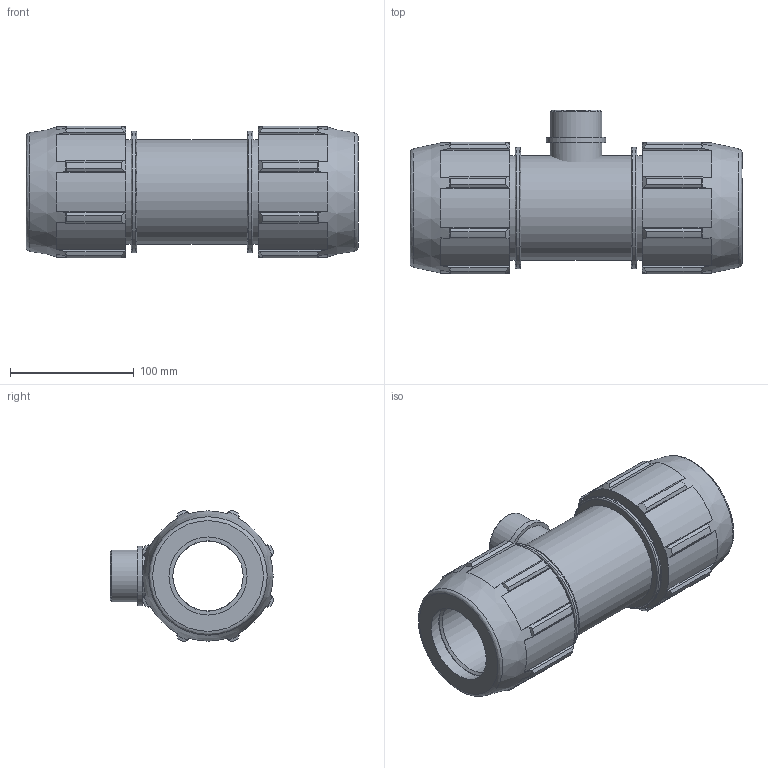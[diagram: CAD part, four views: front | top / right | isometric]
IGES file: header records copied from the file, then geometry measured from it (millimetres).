
Global section: file name: 078400063013_188400063013_0784060630130A.ipt; native system: Autodesk Inventor 2015; preprocessor: unknown; author: Кирилл,,11,0; organization: 20170224.180708; date: 20170606.172436; units: millimetre
Bounding box: 268 x 132.16 x 106.32 mm (x, y, z)
Volume: 1212150 mm3; surface area: 175813.6 mm2
Topology: 2 solids, 2 shells, 170 faces, 482 edges, 327 vertices
Faces by surface type: plane 79, cylinder 40, cone 35, revolution 16
Full cylindrical faces by diameter (mm): 41.91 x2, 48.197 x1, 84.75 x3, 98.31 x2
